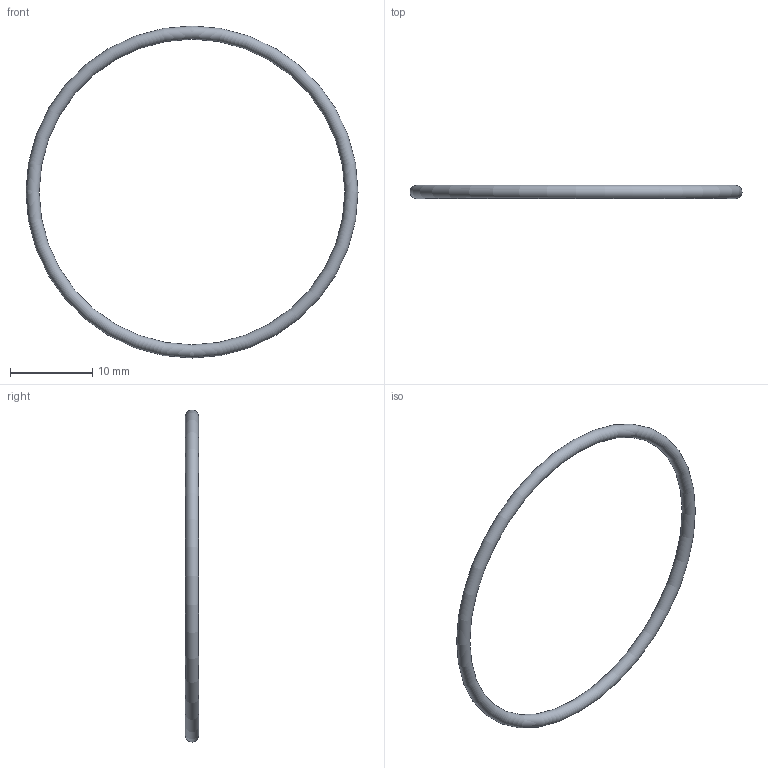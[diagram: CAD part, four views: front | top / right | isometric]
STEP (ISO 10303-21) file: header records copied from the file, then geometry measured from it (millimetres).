
FILE_DESCRIPTION( ( 'STEP AP203' ), '1' );
FILE_NAME( 'C:/Temp/Ganter_Step_05_03_2020/data/3_5/or638/O-Ring OR638-37.10-1.60-70.stp', '2020-03-12T13:44:19', ( 'License CC BY-ND 4.0' ), ( 'CADENAS' ), ' ', 'PARTsolutions', ' ' );
FILE_SCHEMA( ( 'CONFIG_CONTROL_DESIGN' ) );
Length unit declared in the file: millimetre
Products named in the file (1): _O-Ring OR638-37.10-1.60-70
Bounding box: 40.3 x 1.6 x 40.3 mm (x, y, z)
Volume: 244.5 mm3; surface area: 611.1 mm2
Topology: 1 solids, 1 shells, 1 faces, 2 edges, 1 vertices
Faces by surface type: torus 1
Entity records: 62 total; most frequent: CC_DESIGN_PERSON_AND_ORGANIZATION_ASSIGNMENT 5, PERSON_AND_ORGANIZATION_ROLE 4, DIRECTION 4, CARTESIAN_POINT 3, DATE_TIME_ROLE 2, CC_DESIGN_DATE_AND_TIME_ASSIGNMENT 2, AXIS2_PLACEMENT_3D 2, DIMENSIONAL_EXPONENTS 2
